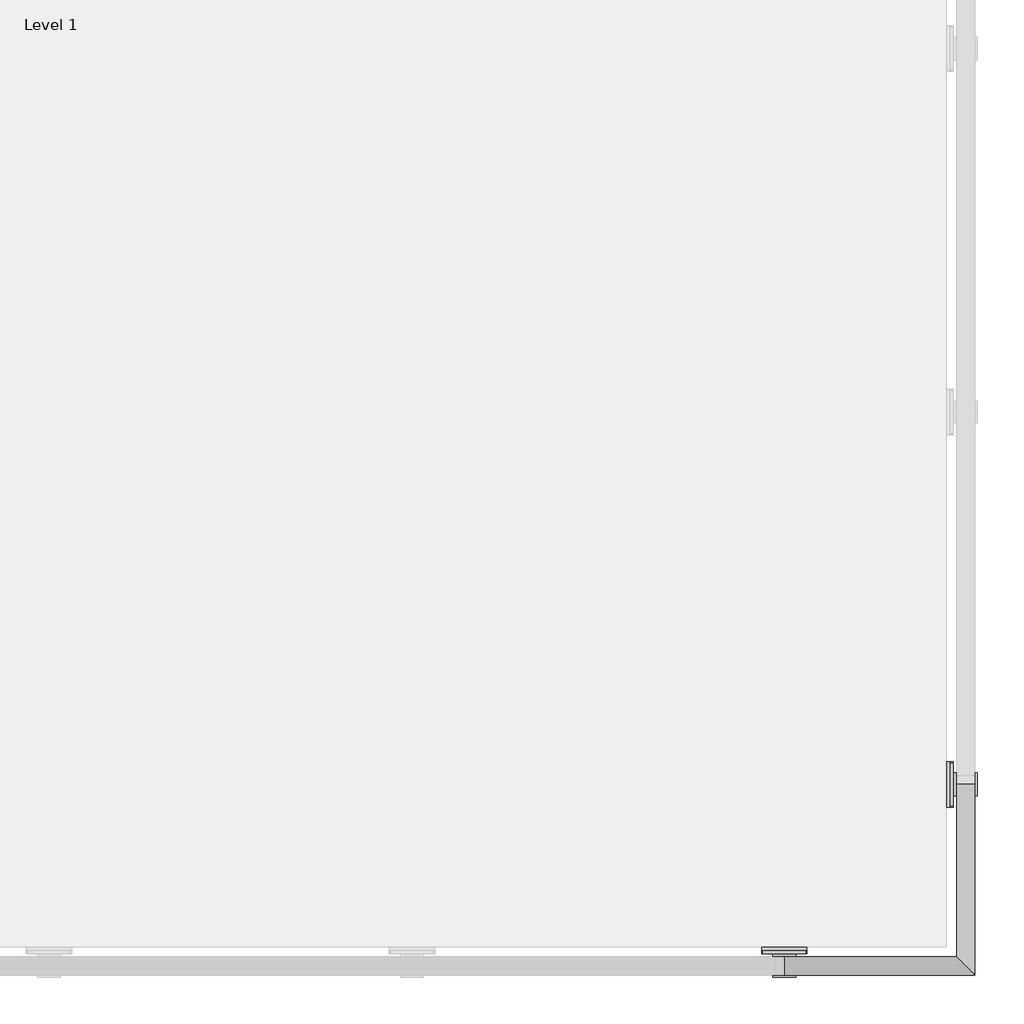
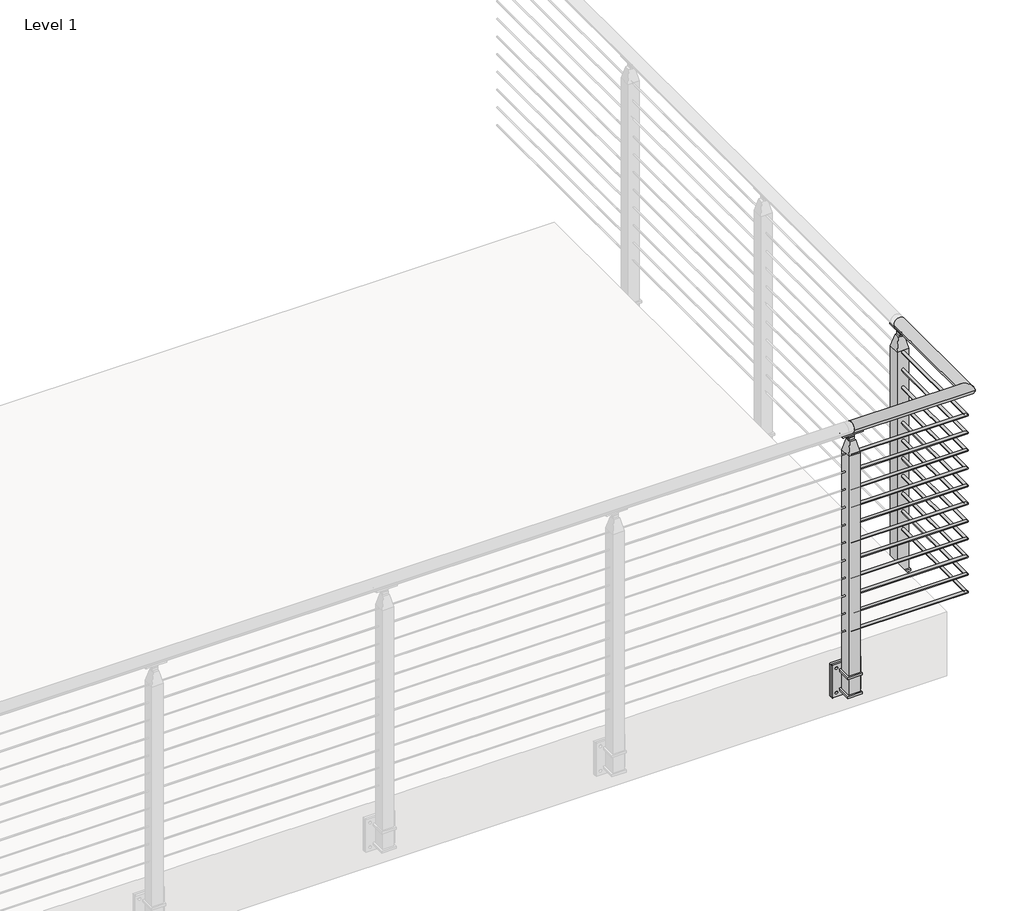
# One storey, part 4 of 26: 1 railing.
"""IFC4 building model written with IfcOpenShell, lengths in millimetres."""

from ifc_helpers import new_model, si_unit, point, frame, frame_2d, origin, place, context, project, spatial, polyline, circle_curve, ellipse_curve, trimmed, segment, composite_curve, outline, extrude, faceted_brep, element, save
from ifc_brep_helpers import plane_surface, cylinder_surface, advanced_brep

model = new_model("IFC4")

# Units and contexts
model_context = context("Model", 3, world=origin())
ifc_project = project(units=[si_unit("LENGTHUNIT", "METRE", prefix="MILLI")], contexts=[model_context])

# Site, building, storey
site = spatial("IfcSite", under=ifc_project)
building = spatial("IfcBuilding", under=site)
storey = spatial("IfcBuildingStorey", under=building, Name="Level 1", Elevation=0.0)

# Railing
placement = place(None, origin())
element("IfcRailing", 1, ObjectType="VIVA-CUBE-Cable-Fascia Mount-Corner", at=placement, inside=storey, context=model_context, shape_type="SolidModel", body=[
    advanced_brep(
    [(-5386.8752117, -57264.3465075, 1054.1), (-5386.8752117, -57213.5465075, 1054.1), (-4853.4752117, -57264.3465075, 1054.1), (-4904.2752117, -57213.5465075, 1054.1), (-4853.4752117, -56730.9465075, 1054.1), (-4904.2752117, -56730.9465075, 1054.1)],
    [
        (0, 1, circle_curve(frame((-5386.8752117, -57238.9465075, 1054.1), z_axis=(-1.0, 0.0, 0.0), x_axis=(0.0, 1.0, 0.0)), 25.4)),
        (1, 0, circle_curve(frame((-5386.8752117, -57238.9465075, 1054.1), z_axis=(-1.0, 0.0, 0.0), x_axis=(0.0, 1.0, 0.0)), 25.4)),
        (0, 2),
        (2, 3, ellipse_curve(frame((-4878.8752117, -57238.9465075, 1054.1), z_axis=(-0.7071067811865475, -0.7071067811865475, 0.0), x_axis=(-0.7071067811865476, 0.7071067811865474, 0.0)), 35.9210245, 25.4)),
        (3, 1),
        (3, 2, ellipse_curve(frame((-4878.8752117, -57238.9465075, 1054.1), z_axis=(-0.7071067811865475, -0.7071067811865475, 0.0), x_axis=(-0.7071067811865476, 0.7071067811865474, 0.0)), 35.9210245, 25.4)),
        (4, 5, circle_curve(frame((-4878.8752117, -56730.9465075, 1054.1), z_axis=(0.0, 1.0, 0.0), x_axis=(-1.0, 0.0, 0.0)), 25.4)),
        (5, 4, circle_curve(frame((-4878.8752117, -56730.9465075, 1054.1), z_axis=(0.0, 1.0, 0.0), x_axis=(-1.0, 0.0, 0.0)), 25.4)),
        (2, 4),
        (5, 3),
    ],
    [
        plane_surface(frame((-5386.8752117, -57238.9465075, 1079.5), z_axis=(-1.0, 0.0, 0.0), x_axis=(0.0, 1.0, 0.0))),
        cylinder_surface(frame((-5386.8752117, -57238.9465075, 1054.1), z_axis=(-1.0, 0.0, 0.0), x_axis=(0.0, 1.0, 0.0)), 25.4),
        plane_surface(frame((-4878.8752117, -56730.9465075, 1079.5), z_axis=(0.0, 1.0, 0.0), x_axis=(0.0, 0.0, 1.0))),
        cylinder_surface(frame((-4878.8752117, -57238.9465075, 1054.1), z_axis=(0.0, -1.0, 0.0), x_axis=(-1.0, 0.0, 0.0)), 25.4),
    ],
    [
        (0, [[1, 2]]),
        (1, [[-1, 3, 4, 5]]),
        (1, [[-2, -5, 6, -3]]),
        (2, [[7, 8]]),
        (3, [[-4, 9, -8, 10]]),
        (3, [[-6, -10, -7, -9]]),
    ],
),
    advanced_brep(
    [(-5386.8752117, -57232.5965075, 933.45), (-5386.8752117, -57245.2965075, 933.45), (-4885.2252117, -57232.5965075, 933.45), (-4872.5252117, -57245.2965075, 933.45), (-4885.2252117, -56730.9465075, 933.45), (-4872.5252117, -56730.9465075, 933.45)],
    [
        (0, 1, circle_curve(frame((-5386.8752117, -57238.9465075, 933.45), z_axis=(-1.0, 0.0, 0.0), x_axis=(0.0, -1.0, 0.0)), 6.35)),
        (1, 0, circle_curve(frame((-5386.8752117, -57238.9465075, 933.45), z_axis=(-1.0, 0.0, 0.0), x_axis=(0.0, -1.0, 0.0)), 6.35)),
        (0, 2),
        (2, 3, ellipse_curve(frame((-4878.8752117, -57238.9465075, 933.45), z_axis=(-0.7071067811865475, -0.7071067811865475, 0.0), x_axis=(-0.7071067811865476, 0.7071067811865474, 0.0)), 8.9802561, 6.35)),
        (3, 1),
        (3, 2, ellipse_curve(frame((-4878.8752117, -57238.9465075, 933.45), z_axis=(-0.7071067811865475, -0.7071067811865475, 0.0), x_axis=(-0.7071067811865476, 0.7071067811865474, 0.0)), 8.9802561, 6.35)),
        (4, 5, circle_curve(frame((-4878.8752117, -56730.9465075, 933.45), z_axis=(0.0, 1.0, 0.0), x_axis=(1.0, 0.0, 0.0)), 6.35)),
        (5, 4, circle_curve(frame((-4878.8752117, -56730.9465075, 933.45), z_axis=(0.0, 1.0, 0.0), x_axis=(1.0, 0.0, 0.0)), 6.35)),
        (2, 4),
        (5, 3),
    ],
    [
        plane_surface(frame((-5386.8752117, -57238.9465075, 939.8), z_axis=(-1.0, 0.0, 0.0), x_axis=(0.0, 1.0, 0.0))),
        cylinder_surface(frame((-5386.8752117, -57238.9465075, 933.45), z_axis=(-1.0, 0.0, 0.0), x_axis=(0.0, -1.0, 0.0)), 6.35),
        plane_surface(frame((-4878.8752117, -56730.9465075, 939.8), z_axis=(0.0, 1.0, 0.0), x_axis=(0.0, 0.0, 1.0))),
        cylinder_surface(frame((-4878.8752117, -57238.9465075, 933.45), z_axis=(0.0, -1.0, 0.0), x_axis=(1.0, 0.0, 0.0)), 6.35),
    ],
    [
        (0, [[1, 2]]),
        (1, [[-1, 3, 4, 5]]),
        (1, [[-2, -5, 6, -3]]),
        (2, [[7, 8]]),
        (3, [[-4, 9, -8, 10]]),
        (3, [[-6, -10, -7, -9]]),
    ],
),
    advanced_brep(
    [(-5386.8752117, -57232.5965075, 850.9), (-5386.8752117, -57245.2965075, 850.9), (-4885.2252117, -57232.5965075, 850.9), (-4872.5252117, -57245.2965075, 850.9), (-4885.2252117, -56730.9465075, 850.9), (-4872.5252117, -56730.9465075, 850.9)],
    [
        (0, 1, circle_curve(frame((-5386.8752117, -57238.9465075, 850.9), z_axis=(-1.0, 0.0, 0.0), x_axis=(0.0, -1.0, 0.0)), 6.35)),
        (1, 0, circle_curve(frame((-5386.8752117, -57238.9465075, 850.9), z_axis=(-1.0, 0.0, 0.0), x_axis=(0.0, -1.0, 0.0)), 6.35)),
        (0, 2),
        (2, 3, ellipse_curve(frame((-4878.8752117, -57238.9465075, 850.9), z_axis=(-0.7071067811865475, -0.7071067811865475, 0.0), x_axis=(-0.7071067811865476, 0.7071067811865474, 0.0)), 8.9802561, 6.35)),
        (3, 1),
        (3, 2, ellipse_curve(frame((-4878.8752117, -57238.9465075, 850.9), z_axis=(-0.7071067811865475, -0.7071067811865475, 0.0), x_axis=(-0.7071067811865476, 0.7071067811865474, 0.0)), 8.9802561, 6.35)),
        (4, 5, circle_curve(frame((-4878.8752117, -56730.9465075, 850.9), z_axis=(0.0, 1.0, 0.0), x_axis=(1.0, 0.0, 0.0)), 6.35)),
        (5, 4, circle_curve(frame((-4878.8752117, -56730.9465075, 850.9), z_axis=(0.0, 1.0, 0.0), x_axis=(1.0, 0.0, 0.0)), 6.35)),
        (2, 4),
        (5, 3),
    ],
    [
        plane_surface(frame((-5386.8752117, -57238.9465075, 857.25), z_axis=(-1.0, 0.0, 0.0), x_axis=(0.0, 1.0, 0.0))),
        cylinder_surface(frame((-5386.8752117, -57238.9465075, 850.9), z_axis=(-1.0, 0.0, 0.0), x_axis=(0.0, -1.0, 0.0)), 6.35),
        plane_surface(frame((-4878.8752117, -56730.9465075, 857.25), z_axis=(0.0, 1.0, 0.0), x_axis=(0.0, 0.0, 1.0))),
        cylinder_surface(frame((-4878.8752117, -57238.9465075, 850.9), z_axis=(0.0, -1.0, 0.0), x_axis=(1.0, 0.0, 0.0)), 6.35),
    ],
    [
        (0, [[1, 2]]),
        (1, [[-1, 3, 4, 5]]),
        (1, [[-2, -5, 6, -3]]),
        (2, [[7, 8]]),
        (3, [[-4, 9, -8, 10]]),
        (3, [[-6, -10, -7, -9]]),
    ],
),
    advanced_brep(
    [(-5386.8752117, -57232.5965075, 768.35), (-5386.8752117, -57245.2965075, 768.35), (-4885.2252117, -57232.5965075, 768.35), (-4872.5252117, -57245.2965075, 768.35), (-4885.2252117, -56730.9465075, 768.35), (-4872.5252117, -56730.9465075, 768.35)],
    [
        (0, 1, circle_curve(frame((-5386.8752117, -57238.9465075, 768.35), z_axis=(-1.0, 0.0, 0.0), x_axis=(0.0, -1.0, 0.0)), 6.35)),
        (1, 0, circle_curve(frame((-5386.8752117, -57238.9465075, 768.35), z_axis=(-1.0, 0.0, 0.0), x_axis=(0.0, -1.0, 0.0)), 6.35)),
        (0, 2),
        (2, 3, ellipse_curve(frame((-4878.8752117, -57238.9465075, 768.35), z_axis=(-0.7071067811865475, -0.7071067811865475, 0.0), x_axis=(-0.7071067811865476, 0.7071067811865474, 0.0)), 8.9802561, 6.35)),
        (3, 1),
        (3, 2, ellipse_curve(frame((-4878.8752117, -57238.9465075, 768.35), z_axis=(-0.7071067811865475, -0.7071067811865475, 0.0), x_axis=(-0.7071067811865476, 0.7071067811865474, 0.0)), 8.9802561, 6.35)),
        (4, 5, circle_curve(frame((-4878.8752117, -56730.9465075, 768.35), z_axis=(0.0, 1.0, 0.0), x_axis=(1.0, 0.0, 0.0)), 6.35)),
        (5, 4, circle_curve(frame((-4878.8752117, -56730.9465075, 768.35), z_axis=(0.0, 1.0, 0.0), x_axis=(1.0, 0.0, 0.0)), 6.35)),
        (2, 4),
        (5, 3),
    ],
    [
        plane_surface(frame((-5386.8752117, -57238.9465075, 774.7), z_axis=(-1.0, 0.0, 0.0), x_axis=(0.0, 1.0, 0.0))),
        cylinder_surface(frame((-5386.8752117, -57238.9465075, 768.35), z_axis=(-1.0, 0.0, 0.0), x_axis=(0.0, -1.0, 0.0)), 6.35),
        plane_surface(frame((-4878.8752117, -56730.9465075, 774.7), z_axis=(0.0, 1.0, 0.0), x_axis=(0.0, 0.0, 1.0))),
        cylinder_surface(frame((-4878.8752117, -57238.9465075, 768.35), z_axis=(0.0, -1.0, 0.0), x_axis=(1.0, 0.0, 0.0)), 6.35),
    ],
    [
        (0, [[1, 2]]),
        (1, [[-1, 3, 4, 5]]),
        (1, [[-2, -5, 6, -3]]),
        (2, [[7, 8]]),
        (3, [[-4, 9, -8, 10]]),
        (3, [[-6, -10, -7, -9]]),
    ],
),
    advanced_brep(
    [(-5386.8752117, -57232.5965075, 685.8), (-5386.8752117, -57245.2965075, 685.8), (-4885.2252117, -57232.5965075, 685.8), (-4872.5252117, -57245.2965075, 685.8), (-4885.2252117, -56730.9465075, 685.8), (-4872.5252117, -56730.9465075, 685.8)],
    [
        (0, 1, circle_curve(frame((-5386.8752117, -57238.9465075, 685.8), z_axis=(-1.0, 0.0, 0.0), x_axis=(0.0, -1.0, 0.0)), 6.35)),
        (1, 0, circle_curve(frame((-5386.8752117, -57238.9465075, 685.8), z_axis=(-1.0, 0.0, 0.0), x_axis=(0.0, -1.0, 0.0)), 6.35)),
        (0, 2),
        (2, 3, ellipse_curve(frame((-4878.8752117, -57238.9465075, 685.8), z_axis=(-0.7071067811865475, -0.7071067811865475, 0.0), x_axis=(-0.7071067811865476, 0.7071067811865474, 0.0)), 8.9802561, 6.35)),
        (3, 1),
        (3, 2, ellipse_curve(frame((-4878.8752117, -57238.9465075, 685.8), z_axis=(-0.7071067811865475, -0.7071067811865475, 0.0), x_axis=(-0.7071067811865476, 0.7071067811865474, 0.0)), 8.9802561, 6.35)),
        (4, 5, circle_curve(frame((-4878.8752117, -56730.9465075, 685.8), z_axis=(0.0, 1.0, 0.0), x_axis=(1.0, 0.0, 0.0)), 6.35)),
        (5, 4, circle_curve(frame((-4878.8752117, -56730.9465075, 685.8), z_axis=(0.0, 1.0, 0.0), x_axis=(1.0, 0.0, 0.0)), 6.35)),
        (2, 4),
        (5, 3),
    ],
    [
        plane_surface(frame((-5386.8752117, -57238.9465075, 692.15), z_axis=(-1.0, 0.0, 0.0), x_axis=(0.0, 1.0, 0.0))),
        cylinder_surface(frame((-5386.8752117, -57238.9465075, 685.8), z_axis=(-1.0, 0.0, 0.0), x_axis=(0.0, -1.0, 0.0)), 6.35),
        plane_surface(frame((-4878.8752117, -56730.9465075, 692.15), z_axis=(0.0, 1.0, 0.0), x_axis=(0.0, 0.0, 1.0))),
        cylinder_surface(frame((-4878.8752117, -57238.9465075, 685.8), z_axis=(0.0, -1.0, 0.0), x_axis=(1.0, 0.0, 0.0)), 6.35),
    ],
    [
        (0, [[1, 2]]),
        (1, [[-1, 3, 4, 5]]),
        (1, [[-2, -5, 6, -3]]),
        (2, [[7, 8]]),
        (3, [[-4, 9, -8, 10]]),
        (3, [[-6, -10, -7, -9]]),
    ],
),
    advanced_brep(
    [(-5386.8752117, -57232.5965075, 603.25), (-5386.8752117, -57245.2965075, 603.25), (-4885.2252117, -57232.5965075, 603.25), (-4872.5252117, -57245.2965075, 603.25), (-4885.2252117, -56730.9465075, 603.25), (-4872.5252117, -56730.9465075, 603.25)],
    [
        (0, 1, circle_curve(frame((-5386.8752117, -57238.9465075, 603.25), z_axis=(-1.0, 0.0, 0.0), x_axis=(0.0, -1.0, 0.0)), 6.35)),
        (1, 0, circle_curve(frame((-5386.8752117, -57238.9465075, 603.25), z_axis=(-1.0, 0.0, 0.0), x_axis=(0.0, -1.0, 0.0)), 6.35)),
        (0, 2),
        (2, 3, ellipse_curve(frame((-4878.8752117, -57238.9465075, 603.25), z_axis=(-0.7071067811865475, -0.7071067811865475, 0.0), x_axis=(-0.7071067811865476, 0.7071067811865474, 0.0)), 8.9802561, 6.35)),
        (3, 1),
        (3, 2, ellipse_curve(frame((-4878.8752117, -57238.9465075, 603.25), z_axis=(-0.7071067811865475, -0.7071067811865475, 0.0), x_axis=(-0.7071067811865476, 0.7071067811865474, 0.0)), 8.9802561, 6.35)),
        (4, 5, circle_curve(frame((-4878.8752117, -56730.9465075, 603.25), z_axis=(0.0, 1.0, 0.0), x_axis=(1.0, 0.0, 0.0)), 6.35)),
        (5, 4, circle_curve(frame((-4878.8752117, -56730.9465075, 603.25), z_axis=(0.0, 1.0, 0.0), x_axis=(1.0, 0.0, 0.0)), 6.35)),
        (2, 4),
        (5, 3),
    ],
    [
        plane_surface(frame((-5386.8752117, -57238.9465075, 609.6), z_axis=(-1.0, 0.0, 0.0), x_axis=(0.0, 1.0, 0.0))),
        cylinder_surface(frame((-5386.8752117, -57238.9465075, 603.25), z_axis=(-1.0, 0.0, 0.0), x_axis=(0.0, -1.0, 0.0)), 6.35),
        plane_surface(frame((-4878.8752117, -56730.9465075, 609.6), z_axis=(0.0, 1.0, 0.0), x_axis=(0.0, 0.0, 1.0))),
        cylinder_surface(frame((-4878.8752117, -57238.9465075, 603.25), z_axis=(0.0, -1.0, 0.0), x_axis=(1.0, 0.0, 0.0)), 6.35),
    ],
    [
        (0, [[1, 2]]),
        (1, [[-1, 3, 4, 5]]),
        (1, [[-2, -5, 6, -3]]),
        (2, [[7, 8]]),
        (3, [[-4, 9, -8, 10]]),
        (3, [[-6, -10, -7, -9]]),
    ],
),
    advanced_brep(
    [(-5386.8752117, -57232.5965075, 520.7), (-5386.8752117, -57245.2965075, 520.7), (-4885.2252117, -57232.5965075, 520.7), (-4872.5252117, -57245.2965075, 520.7), (-4885.2252117, -56730.9465075, 520.7), (-4872.5252117, -56730.9465075, 520.7)],
    [
        (0, 1, circle_curve(frame((-5386.8752117, -57238.9465075, 520.7), z_axis=(-1.0, 0.0, 0.0), x_axis=(0.0, -1.0, 0.0)), 6.35)),
        (1, 0, circle_curve(frame((-5386.8752117, -57238.9465075, 520.7), z_axis=(-1.0, 0.0, 0.0), x_axis=(0.0, -1.0, 0.0)), 6.35)),
        (0, 2),
        (2, 3, ellipse_curve(frame((-4878.8752117, -57238.9465075, 520.7), z_axis=(-0.7071067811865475, -0.7071067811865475, 0.0), x_axis=(-0.7071067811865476, 0.7071067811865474, 0.0)), 8.9802561, 6.35)),
        (3, 1),
        (3, 2, ellipse_curve(frame((-4878.8752117, -57238.9465075, 520.7), z_axis=(-0.7071067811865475, -0.7071067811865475, 0.0), x_axis=(-0.7071067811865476, 0.7071067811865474, 0.0)), 8.9802561, 6.35)),
        (4, 5, circle_curve(frame((-4878.8752117, -56730.9465075, 520.7), z_axis=(0.0, 1.0, 0.0), x_axis=(1.0, 0.0, 0.0)), 6.35)),
        (5, 4, circle_curve(frame((-4878.8752117, -56730.9465075, 520.7), z_axis=(0.0, 1.0, 0.0), x_axis=(1.0, 0.0, 0.0)), 6.35)),
        (2, 4),
        (5, 3),
    ],
    [
        plane_surface(frame((-5386.8752117, -57238.9465075, 527.05), z_axis=(-1.0, 0.0, 0.0), x_axis=(0.0, 1.0, 0.0))),
        cylinder_surface(frame((-5386.8752117, -57238.9465075, 520.7), z_axis=(-1.0, 0.0, 0.0), x_axis=(0.0, -1.0, 0.0)), 6.35),
        plane_surface(frame((-4878.8752117, -56730.9465075, 527.05), z_axis=(0.0, 1.0, 0.0), x_axis=(0.0, 0.0, 1.0))),
        cylinder_surface(frame((-4878.8752117, -57238.9465075, 520.7), z_axis=(0.0, -1.0, 0.0), x_axis=(1.0, 0.0, 0.0)), 6.35),
    ],
    [
        (0, [[1, 2]]),
        (1, [[-1, 3, 4, 5]]),
        (1, [[-2, -5, 6, -3]]),
        (2, [[7, 8]]),
        (3, [[-4, 9, -8, 10]]),
        (3, [[-6, -10, -7, -9]]),
    ],
),
    advanced_brep(
    [(-5386.8752117, -57232.5965075, 438.15), (-5386.8752117, -57245.2965075, 438.15), (-4885.2252117, -57232.5965075, 438.15), (-4872.5252117, -57245.2965075, 438.15), (-4885.2252117, -56730.9465075, 438.15), (-4872.5252117, -56730.9465075, 438.15)],
    [
        (0, 1, circle_curve(frame((-5386.8752117, -57238.9465075, 438.15), z_axis=(-1.0, 0.0, 0.0), x_axis=(0.0, -1.0, 0.0)), 6.35)),
        (1, 0, circle_curve(frame((-5386.8752117, -57238.9465075, 438.15), z_axis=(-1.0, 0.0, 0.0), x_axis=(0.0, -1.0, 0.0)), 6.35)),
        (0, 2),
        (2, 3, ellipse_curve(frame((-4878.8752117, -57238.9465075, 438.15), z_axis=(-0.7071067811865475, -0.7071067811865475, 0.0), x_axis=(-0.7071067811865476, 0.7071067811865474, 0.0)), 8.9802561, 6.35)),
        (3, 1),
        (3, 2, ellipse_curve(frame((-4878.8752117, -57238.9465075, 438.15), z_axis=(-0.7071067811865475, -0.7071067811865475, 0.0), x_axis=(-0.7071067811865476, 0.7071067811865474, 0.0)), 8.9802561, 6.35)),
        (4, 5, circle_curve(frame((-4878.8752117, -56730.9465075, 438.15), z_axis=(0.0, 1.0, 0.0), x_axis=(1.0, 0.0, 0.0)), 6.35)),
        (5, 4, circle_curve(frame((-4878.8752117, -56730.9465075, 438.15), z_axis=(0.0, 1.0, 0.0), x_axis=(1.0, 0.0, 0.0)), 6.35)),
        (2, 4),
        (5, 3),
    ],
    [
        plane_surface(frame((-5386.8752117, -57238.9465075, 444.5), z_axis=(-1.0, 0.0, 0.0), x_axis=(0.0, 1.0, 0.0))),
        cylinder_surface(frame((-5386.8752117, -57238.9465075, 438.15), z_axis=(-1.0, 0.0, 0.0), x_axis=(0.0, -1.0, 0.0)), 6.35),
        plane_surface(frame((-4878.8752117, -56730.9465075, 444.5), z_axis=(0.0, 1.0, 0.0), x_axis=(0.0, 0.0, 1.0))),
        cylinder_surface(frame((-4878.8752117, -57238.9465075, 438.15), z_axis=(0.0, -1.0, 0.0), x_axis=(1.0, 0.0, 0.0)), 6.35),
    ],
    [
        (0, [[1, 2]]),
        (1, [[-1, 3, 4, 5]]),
        (1, [[-2, -5, 6, -3]]),
        (2, [[7, 8]]),
        (3, [[-4, 9, -8, 10]]),
        (3, [[-6, -10, -7, -9]]),
    ],
),
    advanced_brep(
    [(-5386.8752117, -57232.5965075, 355.6), (-5386.8752117, -57245.2965075, 355.6), (-4885.2252117, -57232.5965075, 355.6), (-4872.5252117, -57245.2965075, 355.6), (-4885.2252117, -56730.9465075, 355.6), (-4872.5252117, -56730.9465075, 355.6)],
    [
        (0, 1, circle_curve(frame((-5386.8752117, -57238.9465075, 355.6), z_axis=(-1.0, 0.0, 0.0), x_axis=(0.0, -1.0, 0.0)), 6.35)),
        (1, 0, circle_curve(frame((-5386.8752117, -57238.9465075, 355.6), z_axis=(-1.0, 0.0, 0.0), x_axis=(0.0, -1.0, 0.0)), 6.35)),
        (0, 2),
        (2, 3, ellipse_curve(frame((-4878.8752117, -57238.9465075, 355.6), z_axis=(-0.7071067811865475, -0.7071067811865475, 0.0), x_axis=(-0.7071067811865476, 0.7071067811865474, 0.0)), 8.9802561, 6.35)),
        (3, 1),
        (3, 2, ellipse_curve(frame((-4878.8752117, -57238.9465075, 355.6), z_axis=(-0.7071067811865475, -0.7071067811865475, 0.0), x_axis=(-0.7071067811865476, 0.7071067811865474, 0.0)), 8.9802561, 6.35)),
        (4, 5, circle_curve(frame((-4878.8752117, -56730.9465075, 355.6), z_axis=(0.0, 1.0, 0.0), x_axis=(1.0, 0.0, 0.0)), 6.35)),
        (5, 4, circle_curve(frame((-4878.8752117, -56730.9465075, 355.6), z_axis=(0.0, 1.0, 0.0), x_axis=(1.0, 0.0, 0.0)), 6.35)),
        (2, 4),
        (5, 3),
    ],
    [
        plane_surface(frame((-5386.8752117, -57238.9465075, 361.95), z_axis=(-1.0, 0.0, 0.0), x_axis=(0.0, 1.0, 0.0))),
        cylinder_surface(frame((-5386.8752117, -57238.9465075, 355.6), z_axis=(-1.0, 0.0, 0.0), x_axis=(0.0, -1.0, 0.0)), 6.35),
        plane_surface(frame((-4878.8752117, -56730.9465075, 361.95), z_axis=(0.0, 1.0, 0.0), x_axis=(0.0, 0.0, 1.0))),
        cylinder_surface(frame((-4878.8752117, -57238.9465075, 355.6), z_axis=(0.0, -1.0, 0.0), x_axis=(1.0, 0.0, 0.0)), 6.35),
    ],
    [
        (0, [[1, 2]]),
        (1, [[-1, 3, 4, 5]]),
        (1, [[-2, -5, 6, -3]]),
        (2, [[7, 8]]),
        (3, [[-4, 9, -8, 10]]),
        (3, [[-6, -10, -7, -9]]),
    ],
),
    advanced_brep(
    [(-5386.8752117, -57232.5965075, 273.05), (-5386.8752117, -57245.2965075, 273.05), (-4885.2252117, -57232.5965075, 273.05), (-4872.5252117, -57245.2965075, 273.05), (-4885.2252117, -56730.9465075, 273.05), (-4872.5252117, -56730.9465075, 273.05)],
    [
        (0, 1, circle_curve(frame((-5386.8752117, -57238.9465075, 273.05), z_axis=(-1.0, 0.0, 0.0), x_axis=(0.0, -1.0, 0.0)), 6.35)),
        (1, 0, circle_curve(frame((-5386.8752117, -57238.9465075, 273.05), z_axis=(-1.0, 0.0, 0.0), x_axis=(0.0, -1.0, 0.0)), 6.35)),
        (0, 2),
        (2, 3, ellipse_curve(frame((-4878.8752117, -57238.9465075, 273.05), z_axis=(-0.7071067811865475, -0.7071067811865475, 0.0), x_axis=(-0.7071067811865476, 0.7071067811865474, 0.0)), 8.9802561, 6.35)),
        (3, 1),
        (3, 2, ellipse_curve(frame((-4878.8752117, -57238.9465075, 273.05), z_axis=(-0.7071067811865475, -0.7071067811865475, 0.0), x_axis=(-0.7071067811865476, 0.7071067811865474, 0.0)), 8.9802561, 6.35)),
        (4, 5, circle_curve(frame((-4878.8752117, -56730.9465075, 273.05), z_axis=(0.0, 1.0, 0.0), x_axis=(1.0, 0.0, 0.0)), 6.35)),
        (5, 4, circle_curve(frame((-4878.8752117, -56730.9465075, 273.05), z_axis=(0.0, 1.0, 0.0), x_axis=(1.0, 0.0, 0.0)), 6.35)),
        (2, 4),
        (5, 3),
    ],
    [
        plane_surface(frame((-5386.8752117, -57238.9465075, 279.4), z_axis=(-1.0, 0.0, 0.0), x_axis=(0.0, 1.0, 0.0))),
        cylinder_surface(frame((-5386.8752117, -57238.9465075, 273.05), z_axis=(-1.0, 0.0, 0.0), x_axis=(0.0, -1.0, 0.0)), 6.35),
        plane_surface(frame((-4878.8752117, -56730.9465075, 279.4), z_axis=(0.0, 1.0, 0.0), x_axis=(0.0, 0.0, 1.0))),
        cylinder_surface(frame((-4878.8752117, -57238.9465075, 273.05), z_axis=(0.0, -1.0, 0.0), x_axis=(1.0, 0.0, 0.0)), 6.35),
    ],
    [
        (0, [[1, 2]]),
        (1, [[-1, 3, 4, 5]]),
        (1, [[-2, -5, 6, -3]]),
        (2, [[7, 8]]),
        (3, [[-4, 9, -8, 10]]),
        (3, [[-6, -10, -7, -9]]),
    ],
),
    advanced_brep(
    [(-5386.8752117, -57232.5965075, 190.5), (-5386.8752117, -57245.2965075, 190.5), (-4885.2252117, -57232.5965075, 190.5), (-4872.5252117, -57245.2965075, 190.5), (-4885.2252117, -56730.9465075, 190.5), (-4872.5252117, -56730.9465075, 190.5)],
    [
        (0, 1, circle_curve(frame((-5386.8752117, -57238.9465075, 190.5), z_axis=(-1.0, 0.0, 0.0), x_axis=(0.0, -1.0, 0.0)), 6.35)),
        (1, 0, circle_curve(frame((-5386.8752117, -57238.9465075, 190.5), z_axis=(-1.0, 0.0, 0.0), x_axis=(0.0, -1.0, 0.0)), 6.35)),
        (0, 2),
        (2, 3, ellipse_curve(frame((-4878.8752117, -57238.9465075, 190.5), z_axis=(-0.7071067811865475, -0.7071067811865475, 0.0), x_axis=(-0.7071067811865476, 0.7071067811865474, 0.0)), 8.9802561, 6.35)),
        (3, 1),
        (3, 2, ellipse_curve(frame((-4878.8752117, -57238.9465075, 190.5), z_axis=(-0.7071067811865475, -0.7071067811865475, 0.0), x_axis=(-0.7071067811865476, 0.7071067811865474, 0.0)), 8.9802561, 6.35)),
        (4, 5, circle_curve(frame((-4878.8752117, -56730.9465075, 190.5), z_axis=(0.0, 1.0, 0.0), x_axis=(1.0, 0.0, 0.0)), 6.35)),
        (5, 4, circle_curve(frame((-4878.8752117, -56730.9465075, 190.5), z_axis=(0.0, 1.0, 0.0), x_axis=(1.0, 0.0, 0.0)), 6.35)),
        (2, 4),
        (5, 3),
    ],
    [
        plane_surface(frame((-5386.8752117, -57238.9465075, 196.85), z_axis=(-1.0, 0.0, 0.0), x_axis=(0.0, 1.0, 0.0))),
        cylinder_surface(frame((-5386.8752117, -57238.9465075, 190.5), z_axis=(-1.0, 0.0, 0.0), x_axis=(0.0, -1.0, 0.0)), 6.35),
        plane_surface(frame((-4878.8752117, -56730.9465075, 196.85), z_axis=(0.0, 1.0, 0.0), x_axis=(0.0, 0.0, 1.0))),
        cylinder_surface(frame((-4878.8752117, -57238.9465075, 190.5), z_axis=(0.0, -1.0, 0.0), x_axis=(1.0, 0.0, 0.0)), 6.35),
    ],
    [
        (0, [[1, 2]]),
        (1, [[-1, 3, 4, 5]]),
        (1, [[-2, -5, 6, -3]]),
        (2, [[7, 8]]),
        (3, [[-4, 9, -8, 10]]),
        (3, [[-6, -10, -7, -9]]),
    ],
),
    advanced_brep(
    [(-5386.8752117, -57232.5965075, 107.95), (-5386.8752117, -57245.2965075, 107.95), (-4885.2252117, -57232.5965075, 107.95), (-4872.5252117, -57245.2965075, 107.95), (-4885.2252117, -56730.9465075, 107.95), (-4872.5252117, -56730.9465075, 107.95)],
    [
        (0, 1, circle_curve(frame((-5386.8752117, -57238.9465075, 107.95), z_axis=(-1.0, 0.0, 0.0), x_axis=(0.0, -1.0, 0.0)), 6.35)),
        (1, 0, circle_curve(frame((-5386.8752117, -57238.9465075, 107.95), z_axis=(-1.0, 0.0, 0.0), x_axis=(0.0, -1.0, 0.0)), 6.35)),
        (0, 2),
        (2, 3, ellipse_curve(frame((-4878.8752117, -57238.9465075, 107.95), z_axis=(-0.7071067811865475, -0.7071067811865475, 0.0), x_axis=(-0.7071067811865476, 0.7071067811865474, 0.0)), 8.9802561, 6.35)),
        (3, 1),
        (3, 2, ellipse_curve(frame((-4878.8752117, -57238.9465075, 107.95), z_axis=(-0.7071067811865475, -0.7071067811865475, 0.0), x_axis=(-0.7071067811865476, 0.7071067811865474, 0.0)), 8.9802561, 6.35)),
        (4, 5, circle_curve(frame((-4878.8752117, -56730.9465075, 107.95), z_axis=(0.0, 1.0, 0.0), x_axis=(1.0, 0.0, 0.0)), 6.35)),
        (5, 4, circle_curve(frame((-4878.8752117, -56730.9465075, 107.95), z_axis=(0.0, 1.0, 0.0), x_axis=(1.0, 0.0, 0.0)), 6.35)),
        (2, 4),
        (5, 3),
    ],
    [
        plane_surface(frame((-5386.8752117, -57238.9465075, 114.3), z_axis=(-1.0, 0.0, 0.0), x_axis=(0.0, 1.0, 0.0))),
        cylinder_surface(frame((-5386.8752117, -57238.9465075, 107.95), z_axis=(-1.0, 0.0, 0.0), x_axis=(0.0, -1.0, 0.0)), 6.35),
        plane_surface(frame((-4878.8752117, -56730.9465075, 114.3), z_axis=(0.0, 1.0, 0.0), x_axis=(0.0, 0.0, 1.0))),
        cylinder_surface(frame((-4878.8752117, -57238.9465075, 107.95), z_axis=(0.0, -1.0, 0.0), x_axis=(1.0, 0.0, 0.0)), 6.35),
    ],
    [
        (0, [[1, 2]]),
        (1, [[-1, 3, 4, 5]]),
        (1, [[-2, -5, 6, -3]]),
        (2, [[7, 8]]),
        (3, [[-4, 9, -8, 10]]),
        (3, [[-6, -10, -7, -9]]),
    ],
),
    extrude(outline(polyline([(-4933.3882474, -56667.0496325), (-4923.4060474, -56667.0496325), (-4923.4060474, -56794.0496325), (-4933.3882474, -56794.0496325), (-4933.3882474, -56667.0496325)])), frame((0.0, 0.0, -209.55), z_axis=(0.0, 0.0, 1.0), x_axis=(1.0, 0.0, 0.0)), (0.0, 0.0, 1.0), 152.4),
    extrude(outline(composite_curve([segment(trimmed(circle_curve(frame_2d((-56669.5896325, -59.69)), 2.54), [point((-56669.5896325, -57.15))], [point((-56667.0496325, -59.69))], False, "CARTESIAN"), True, "CONTINUOUS"), segment(polyline([(-56667.0496325, -59.69), (-56667.0496325, -207.01)]), True, "CONTINUOUS"), segment(trimmed(circle_curve(frame_2d((-56669.5896325, -207.01)), 2.54), [point((-56667.0496325, -207.01))], [point((-56669.5896325, -209.55))], False, "CARTESIAN"), True, "CONTINUOUS"), segment(polyline([(-56669.5896325, -209.55), (-56791.5096325, -209.55)]), True, "CONTINUOUS"), segment(trimmed(circle_curve(frame_2d((-56791.5096325, -207.01)), 2.54), [point((-56791.5096325, -209.55))], [point((-56794.0496325, -207.01))], False, "CARTESIAN"), True, "CONTINUOUS"), segment(polyline([(-56794.0496325, -207.01), (-56794.0496325, -59.69)]), True, "CONTINUOUS"), segment(trimmed(circle_curve(frame_2d((-56791.5096325, -59.69)), 2.54), [point((-56794.0496325, -59.69))], [point((-56791.5096325, -57.15))], False, "CARTESIAN"), True, "CONTINUOUS"), segment(polyline([(-56791.5096325, -57.15), (-56669.5896325, -57.15)]), True, "CONTINUOUS")], self_intersect=False), holes=[composite_curve([segment(trimmed(circle_curve(frame_2d((-56774.9996325, -76.2)), 5.55625), [point((-56769.4433825, -76.2))], [point((-56780.5558825, -76.2))], True, "CARTESIAN"), True, "CONTINUOUS"), segment(trimmed(circle_curve(frame_2d((-56774.9996325, -76.2)), 5.55625), [point((-56780.5558825, -76.2))], [point((-56769.4433825, -76.2))], True, "CARTESIAN"), True, "CONTINUOUS")], self_intersect=False), composite_curve([segment(trimmed(circle_curve(frame_2d((-56686.0996325, -76.2)), 5.55625), [point((-56680.5433825, -76.2))], [point((-56691.6558825, -76.2))], True, "CARTESIAN"), True, "CONTINUOUS"), segment(trimmed(circle_curve(frame_2d((-56686.0996325, -76.2)), 5.55625), [point((-56691.6558825, -76.2))], [point((-56680.5433825, -76.2))], True, "CARTESIAN"), True, "CONTINUOUS")], self_intersect=False), composite_curve([segment(trimmed(circle_curve(frame_2d((-56686.0996325, -190.5)), 5.55625), [point((-56680.5433825, -190.5))], [point((-56691.6558825, -190.5))], True, "CARTESIAN"), True, "CONTINUOUS"), segment(trimmed(circle_curve(frame_2d((-56686.0996325, -190.5)), 5.55625), [point((-56691.6558825, -190.5))], [point((-56680.5433825, -190.5))], True, "CARTESIAN"), True, "CONTINUOUS")], self_intersect=False), composite_curve([segment(trimmed(circle_curve(frame_2d((-56774.9996325, -190.5)), 5.55625), [point((-56769.4433825, -190.5))], [point((-56780.5558825, -190.5))], True, "CARTESIAN"), True, "CONTINUOUS"), segment(trimmed(circle_curve(frame_2d((-56774.9996325, -190.5)), 5.55625), [point((-56780.5558825, -190.5))], [point((-56769.4433825, -190.5))], True, "CARTESIAN"), True, "CONTINUOUS")], self_intersect=False)]), frame((-4923.4060474, 0.0, 0.0), z_axis=(1.0, 0.0, 0.0), x_axis=(0.0, 1.0, 0.0)), (0.0, 0.0, 1.0), 9.9822),
    extrude(outline(polyline([(-4923.4060474, -56762.2996325), (-4923.4060474, -56698.7996325), (-4847.1252117, -56698.7996325), (-4847.1252117, -56762.2996325), (-4923.4060474, -56762.2996325)])), frame((0.0, 0.0, -182.5625), z_axis=(0.0, 0.0, 1.0), x_axis=(1.0, 0.0, 0.0)), (0.0, 0.0, 1.0), 9.5123),
    extrude(outline(polyline([(-4923.4060474, -56762.2996325), (-4923.4060474, -56698.7996325), (-4847.1252117, -56698.7996325), (-4847.1252117, -56762.2996325), (-4923.4060474, -56762.2996325)])), frame((0.0, 0.0, -93.6625), z_axis=(0.0, 0.0, 1.0), x_axis=(1.0, 0.0, 0.0)), (0.0, 0.0, 1.0), 9.525),
    faceted_brep([(-4891.5752117, -56717.8496325, 997.2902749), (-4891.5752117, -56743.2496325, 997.2902749), (-4882.8439617, -56743.2496325, 997.2902749), (-4882.8439617, -56717.8496325, 997.2902749), (-4866.1752117, -56743.2496325, 997.2902749), (-4866.1752117, -56717.8496325, 997.2902749), (-4874.9064617, -56717.8496325, 997.2902749), (-4874.9064617, -56743.2496325, 997.2902749), (-4904.2752117, -56705.1496325, 941.1347854), (-4853.4752117, -56705.1496325, 941.1347854), (-4904.2752117, -56755.9496325, 941.1347854), (-4853.4752117, -56755.9496325, 941.1347854), (-4904.2752117, -56705.1496325, -173.0502), (-4853.4752117, -56705.1496325, -173.0502), (-4853.4752117, -56755.9496325, -173.0502), (-4904.2752117, -56755.9496325, -173.0502), (-4874.9064617, -56743.2496325, 1009.3306013), (-4874.9064617, -56717.8496325, 1009.3306013), (-4882.8439617, -56717.8496325, 1009.3306013), (-4882.8439617, -56743.2496325, 1009.3306013)], [[[0, 1, 2, 3]], [[4, 5, 6, 7]], [[8, 0, 3, 6, 5, 9]], [[1, 0, 8, 10]], [[1, 10, 11, 4, 7, 2]], [[5, 4, 11, 9]], [[12, 13, 14, 15]], [[12, 15, 10, 8]], [[15, 14, 11, 10]], [[14, 13, 9, 11]], [[13, 12, 8, 9]], [[16, 17, 18, 19]], [[17, 16, 7, 6]], [[18, 17, 6, 3]], [[19, 18, 3, 2]], [[16, 19, 2, 7]]]),
    extrude(outline(composite_curve([segment(trimmed(circle_curve(frame_2d((1054.1433184, -4878.9719401)), 25.4345159), [point((1032.0284941, -4866.4081372))], [point((1031.9335733, -4891.3671739))], True, "CARTESIAN"), True, "CONTINUOUS"), segment(trimmed(circle_curve(frame_2d((1029.4310885, -4892.611827)), 2.7949225), [point((1031.9335733, -4891.3671739))], [point((1027.0585031, -4894.089132))], False, "CARTESIAN"), True, "CONTINUOUS"), segment(trimmed(circle_curve(frame_2d((1054.905945, -4878.838477)), 31.75), [point((1027.0585031, -4894.089132))], [point((1027.6392616, -4862.5722398))], False, "CARTESIAN"), True, "CONTINUOUS"), segment(trimmed(circle_curve(frame_2d((1029.5101807, -4864.8605795)), 2.9558141), [point((1027.6392616, -4862.5722398))], [point((1032.0284941, -4866.4081372))], False, "CARTESIAN"), True, "CONTINUOUS")], self_intersect=False)), frame((0.0, -56775.7870325, 0.0), z_axis=(0.0, 1.0, 0.0), x_axis=(0.0, 0.0, 1.0)), (0.0, 0.0, 1.0), 90.4748),
    extrude(outline(composite_curve([segment(trimmed(circle_curve(frame_2d((-56703.4817176, 1009.0006022)), 14.3679149), [point((-56703.4817176, 1023.3685171))], [point((-56717.8496325, 1009.0006022))], True, "CARTESIAN"), True, "CONTINUOUS"), segment(trimmed(circle_curve(frame_2d((-56730.5496325, 1009.0006022)), 12.7), [point((-56717.8496325, 1009.0006022))], [point((-56743.2496325, 1009.0006022))], False, "CARTESIAN"), True, "CONTINUOUS"), segment(trimmed(circle_curve(frame_2d((-56757.6175473, 1009.0006022)), 14.3679149), [point((-56743.2496325, 1009.0006022))], [point((-56757.6175473, 1023.3685171))], True, "CARTESIAN"), True, "CONTINUOUS"), segment(polyline([(-56757.6175473, 1023.3685171), (-56703.4817176, 1023.3685171)]), True, "CONTINUOUS")], self_intersect=False)), frame((-4881.4152117, 0.0, 0.0), z_axis=(1.0, 0.0, 0.0), x_axis=(0.0, 1.0, 0.0)), (0.0, 0.0, 1.0), 5.08),
    extrude(outline(polyline([(-5322.9783367, -57184.4334719), (-5322.9783367, -57194.4156719), (-5449.9783367, -57194.4156719), (-5449.9783367, -57184.4334719), (-5322.9783367, -57184.4334719)])), frame((0.0, 0.0, -209.55), z_axis=(0.0, 0.0, 1.0), x_axis=(1.0, 0.0, 0.0)), (0.0, 0.0, 1.0), 152.4),
    extrude(outline(composite_curve([segment(polyline([(-57.15, -5325.5183367), (-57.15, -5447.4383367)]), True, "CONTINUOUS"), segment(trimmed(circle_curve(frame_2d((-59.69, -5447.4383367)), 2.54), [point((-57.15, -5447.4383367))], [point((-59.69, -5449.9783367))], False, "CARTESIAN"), True, "CONTINUOUS"), segment(polyline([(-59.69, -5449.9783367), (-207.01, -5449.9783367)]), True, "CONTINUOUS"), segment(trimmed(circle_curve(frame_2d((-207.01, -5447.4383367)), 2.54), [point((-207.01, -5449.9783367))], [point((-209.55, -5447.4383367))], False, "CARTESIAN"), True, "CONTINUOUS"), segment(polyline([(-209.55, -5447.4383367), (-209.55, -5325.5183367)]), True, "CONTINUOUS"), segment(trimmed(circle_curve(frame_2d((-207.01, -5325.5183367)), 2.54), [point((-209.55, -5325.5183367))], [point((-207.01, -5322.9783367))], False, "CARTESIAN"), True, "CONTINUOUS"), segment(polyline([(-207.01, -5322.9783367), (-59.69, -5322.9783367)]), True, "CONTINUOUS"), segment(trimmed(circle_curve(frame_2d((-59.69, -5325.5183367)), 2.54), [point((-59.69, -5322.9783367))], [point((-57.15, -5325.5183367))], False, "CARTESIAN"), True, "CONTINUOUS")], self_intersect=False), holes=[composite_curve([segment(trimmed(circle_curve(frame_2d((-76.2, -5430.9283367)), 5.55625), [point((-76.2, -5425.3720867))], [point((-76.2, -5436.4845867))], True, "CARTESIAN"), True, "CONTINUOUS"), segment(trimmed(circle_curve(frame_2d((-76.2, -5430.9283367)), 5.55625), [point((-76.2, -5436.4845867))], [point((-76.2, -5425.3720867))], True, "CARTESIAN"), True, "CONTINUOUS")], self_intersect=False), composite_curve([segment(trimmed(circle_curve(frame_2d((-76.2, -5342.0283367)), 5.55625), [point((-76.2, -5336.4720867))], [point((-76.2, -5347.5845867))], True, "CARTESIAN"), True, "CONTINUOUS"), segment(trimmed(circle_curve(frame_2d((-76.2, -5342.0283367)), 5.55625), [point((-76.2, -5347.5845867))], [point((-76.2, -5336.4720867))], True, "CARTESIAN"), True, "CONTINUOUS")], self_intersect=False), composite_curve([segment(trimmed(circle_curve(frame_2d((-190.5, -5342.0283367)), 5.55625), [point((-190.5, -5336.4720867))], [point((-190.5, -5347.5845867))], True, "CARTESIAN"), True, "CONTINUOUS"), segment(trimmed(circle_curve(frame_2d((-190.5, -5342.0283367)), 5.55625), [point((-190.5, -5347.5845867))], [point((-190.5, -5336.4720867))], True, "CARTESIAN"), True, "CONTINUOUS")], self_intersect=False), composite_curve([segment(trimmed(circle_curve(frame_2d((-190.5, -5430.9283367)), 5.55625), [point((-190.5, -5425.3720867))], [point((-190.5, -5436.4845867))], True, "CARTESIAN"), True, "CONTINUOUS"), segment(trimmed(circle_curve(frame_2d((-190.5, -5430.9283367)), 5.55625), [point((-190.5, -5436.4845867))], [point((-190.5, -5425.3720867))], True, "CARTESIAN"), True, "CONTINUOUS")], self_intersect=False)]), frame((0.0, -57204.3978719, 0.0), z_axis=(0.0, 1.0, 0.0), x_axis=(0.0, 0.0, 1.0)), (0.0, 0.0, 1.0), 9.9822),
    extrude(outline(polyline([(-5418.2283367, -57194.4156719), (-5354.7283367, -57194.4156719), (-5354.7283367, -57270.6965075), (-5418.2283367, -57270.6965075), (-5418.2283367, -57194.4156719)])), frame((0.0, 0.0, -182.5625), z_axis=(0.0, 0.0, 1.0), x_axis=(1.0, 0.0, 0.0)), (0.0, 0.0, 1.0), 9.5123),
    extrude(outline(polyline([(-5418.2283367, -57194.4156719), (-5354.7283367, -57194.4156719), (-5354.7283367, -57270.6965075), (-5418.2283367, -57270.6965075), (-5418.2283367, -57194.4156719)])), frame((0.0, 0.0, -93.6625), z_axis=(0.0, 0.0, 1.0), x_axis=(1.0, 0.0, 0.0)), (0.0, 0.0, 1.0), 9.525),
    faceted_brep([(-5373.7783367, -57226.2465075, 997.2902749), (-5399.1783367, -57226.2465075, 997.2902749), (-5399.1783367, -57234.9777575, 997.2902749), (-5373.7783367, -57234.9777575, 997.2902749), (-5399.1783367, -57251.6465075, 997.2902749), (-5373.7783367, -57251.6465075, 997.2902749), (-5373.7783367, -57242.9152575, 997.2902749), (-5399.1783367, -57242.9152575, 997.2902749), (-5361.0783367, -57213.5465075, 941.1347854), (-5361.0783367, -57264.3465075, 941.1347854), (-5411.8783367, -57213.5465075, 941.1347854), (-5411.8783367, -57264.3465075, 941.1347854), (-5361.0783367, -57213.5465075, -173.0502), (-5361.0783367, -57264.3465075, -173.0502), (-5411.8783367, -57264.3465075, -173.0502), (-5411.8783367, -57213.5465075, -173.0502), (-5399.1783367, -57242.9152575, 1009.3306013), (-5373.7783367, -57242.9152575, 1009.3306013), (-5373.7783367, -57234.9777575, 1009.3306013), (-5399.1783367, -57234.9777575, 1009.3306013)], [[[0, 1, 2, 3]], [[4, 5, 6, 7]], [[8, 0, 3, 6, 5, 9]], [[1, 0, 8, 10]], [[1, 10, 11, 4, 7, 2]], [[5, 4, 11, 9]], [[12, 13, 14, 15]], [[12, 15, 10, 8]], [[15, 14, 11, 10]], [[14, 13, 9, 11]], [[13, 12, 8, 9]], [[16, 17, 18, 19]], [[17, 16, 7, 6]], [[18, 17, 6, 3]], [[19, 18, 3, 2]], [[16, 19, 2, 7]]]),
    extrude(outline(composite_curve([segment(trimmed(circle_curve(frame_2d((-57238.8497791, 1054.1433184)), 25.4345159), [point((-57251.413582, 1032.0284941))], [point((-57226.4545454, 1031.9335733))], True, "CARTESIAN"), True, "CONTINUOUS"), segment(trimmed(circle_curve(frame_2d((-57225.2098922, 1029.4310885)), 2.7949225), [point((-57226.4545454, 1031.9335733))], [point((-57223.7325872, 1027.0585031))], False, "CARTESIAN"), True, "CONTINUOUS"), segment(trimmed(circle_curve(frame_2d((-57238.9832422, 1054.905945)), 31.75), [point((-57223.7325872, 1027.0585031))], [point((-57255.2494794, 1027.6392616))], False, "CARTESIAN"), True, "CONTINUOUS"), segment(trimmed(circle_curve(frame_2d((-57252.9611397, 1029.5101807)), 2.9558141), [point((-57255.2494794, 1027.6392616))], [point((-57251.413582, 1032.0284941))], False, "CARTESIAN"), True, "CONTINUOUS")], self_intersect=False)), frame((-5431.7157367, 0.0, 0.0), z_axis=(1.0, 0.0, 0.0), x_axis=(0.0, 1.0, 0.0)), (0.0, 0.0, 1.0), 90.4748),
    extrude(outline(composite_curve([segment(polyline([(1023.3685171, -5359.4104219), (1023.3685171, -5413.5462516)]), True, "CONTINUOUS"), segment(trimmed(circle_curve(frame_2d((1009.0006022, -5413.5462516)), 14.3679149), [point((1023.3685171, -5413.5462516))], [point((1009.0006022, -5399.1783367))], True, "CARTESIAN"), True, "CONTINUOUS"), segment(trimmed(circle_curve(frame_2d((1009.0006022, -5386.4783367)), 12.7), [point((1009.0006022, -5399.1783367))], [point((1009.0006022, -5373.7783367))], False, "CARTESIAN"), True, "CONTINUOUS"), segment(trimmed(circle_curve(frame_2d((1009.0006022, -5359.4104219)), 14.3679149), [point((1009.0006022, -5373.7783367))], [point((1023.3685171, -5359.4104219))], True, "CARTESIAN"), True, "CONTINUOUS")], self_intersect=False)), frame((0.0, -57241.4865075, 0.0), z_axis=(0.0, 1.0, 0.0), x_axis=(0.0, 0.0, 1.0)), (0.0, 0.0, 1.0), 5.08),
])

save(model, "model.ifc")
